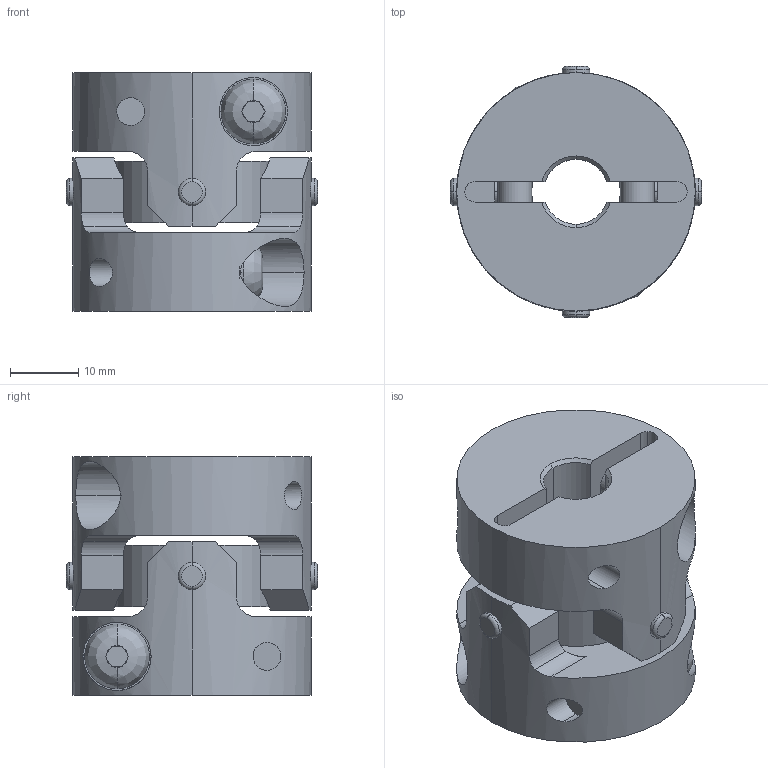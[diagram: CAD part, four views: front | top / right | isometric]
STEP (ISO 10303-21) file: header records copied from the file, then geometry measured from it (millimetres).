
FILE_DESCRIPTION((''),'2;1');
FILE_NAME('UA-35C-9.525×14.stp','2013-11-12T14:57:35',(''),(''),'AutoCAD STEP 2000i','AutoCAD 2000i',', , ');
FILE_SCHEMA(('CONFIG_CONTROL_DESIGN'));
Length unit declared in the file: millimetre
Products named in the file (7): UA-35C-8×14; 忣兜1; UA-3502-D14; BTN-M5; UA-3502-D08-1; UA-3502-D08; UA35-SEN
Assembly tree (8 placements, depth 3):
  UA-35C-8×14
    忣兜1
    UA-3502-D14
      BTN-M5
    UA-3502-D08-1
      BTN-M5
    UA-3502-D08
      BTN-M5
    UA35-SEN
Bounding box: 36.83 x 36.83 x 35 mm (x, y, z)
Volume: 22453.3 mm3; surface area: 11753.9 mm2
Topology: 1 solids, 1 shells, 250 faces, 646 edges, 408 vertices
Faces by surface type: plane 122, cylinder 96, cone 16, bspline 8, torus 8
Entity records: 9661 total; most frequent: CARTESIAN_POINT 3385, DIRECTION 1292, ORIENTED_EDGE 1292, EDGE_CURVE 646, AXIS2_PLACEMENT_3D 499, VERTEX_POINT 408, VECTOR 294, LINE 294
